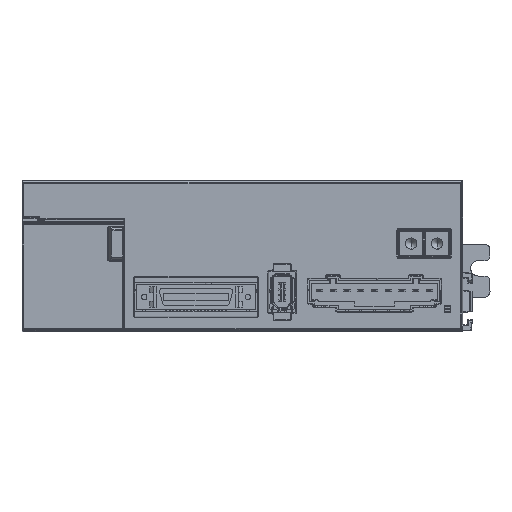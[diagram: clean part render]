
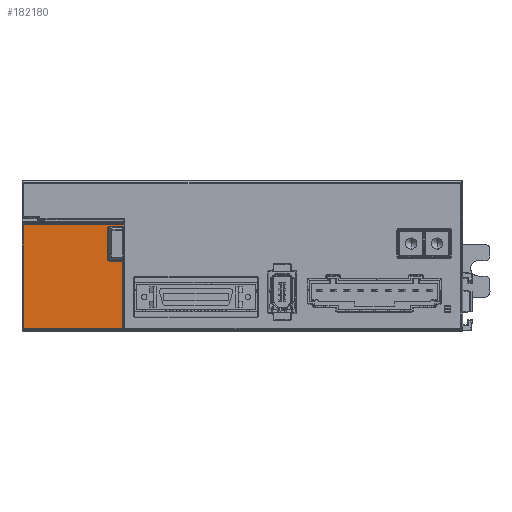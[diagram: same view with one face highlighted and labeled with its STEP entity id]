
A CAD part, front view. The second image highlights one B-rep face of the part: STEP entity #182180.
In plain terms, the highlighted planar face has unit normal (0, -1, 0).
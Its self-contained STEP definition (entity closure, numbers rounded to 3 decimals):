
#176480=DIRECTION('',(0.,0.,1.));
#176481=VECTOR('',#176480,37.586);
#176482=CARTESIAN_POINT('',(-79.461,-73.,-4.993));
#176483=LINE('',#176482,#176481);
#176622=DIRECTION('',(1.,0.,0.));
#176623=VECTOR('',#176622,36.104);
#176624=CARTESIAN_POINT('',(-79.461,-73.,32.593));
#176625=LINE('',#176624,#176623);
#176634=DIRECTION('',(-1.,0.,0.));
#176635=VECTOR('',#176634,36.104);
#176636=CARTESIAN_POINT('',(-43.357,-73.,-4.993));
#176637=LINE('',#176636,#176635);
#179044=DIRECTION('',(0.,0.,-1.));
#179045=VECTOR('',#179044,0.451);
#179046=CARTESIAN_POINT('',(-43.357,-73.,32.593));
#179047=LINE('',#179046,#179045);
#179196=DIRECTION('',(0.,0.,-1.));
#179197=VECTOR('',#179196,24.451);
#179198=CARTESIAN_POINT('',(-43.357,-73.,19.458));
#179199=LINE('',#179198,#179197);
#179233=DIRECTION('',(1.,0.,0.));
#179234=VECTOR('',#179233,4.937);
#179235=CARTESIAN_POINT('',(-48.294,-73.,19.458));
#179236=LINE('',#179235,#179234);
#179241=CARTESIAN_POINT('',(-48.817,-73.,19.95));
#179242=CARTESIAN_POINT('',(-48.817,-73.,19.898));
#179243=CARTESIAN_POINT('',(-48.801,-73.,19.799));
#179244=CARTESIAN_POINT('',(-48.728,-73.,19.66));
#179245=CARTESIAN_POINT('',(-48.614,-73.,19.55));
#179246=CARTESIAN_POINT('',(-48.466,-73.,19.476));
#179247=CARTESIAN_POINT('',(-48.354,-73.,19.459));
#179248=CARTESIAN_POINT('',(-48.294,-73.,19.458));
#179264=DIRECTION('',(0.,0.,-1.));
#179265=VECTOR('',#179264,11.701);
#179266=CARTESIAN_POINT('',(-48.817,-73.,31.65));
#179267=LINE('',#179266,#179265);
#179273=CARTESIAN_POINT('',(-48.294,-73.,32.142));
#179274=CARTESIAN_POINT('',(-48.354,-73.,32.141));
#179275=CARTESIAN_POINT('',(-48.464,-73.,32.125));
#179276=CARTESIAN_POINT('',(-48.614,-73.,32.051));
#179277=CARTESIAN_POINT('',(-48.729,-73.,31.939));
#179278=CARTESIAN_POINT('',(-48.801,-73.,31.799));
#179279=CARTESIAN_POINT('',(-48.817,-73.,31.701));
#179280=CARTESIAN_POINT('',(-48.817,-73.,31.65));
#179491=DIRECTION('',(-1.,0.,0.));
#179492=VECTOR('',#179491,4.937);
#179493=CARTESIAN_POINT('',(-43.357,-73.,32.142));
#179494=LINE('',#179493,#179492);
#180402=CARTESIAN_POINT('',(-79.461,-73.,32.593));
#180403=CARTESIAN_POINT('',(-43.357,-73.,32.593));
#180404=VERTEX_POINT('',#180402);
#180405=VERTEX_POINT('',#180403);
#180406=CARTESIAN_POINT('',(-43.357,-73.,-4.993));
#180407=CARTESIAN_POINT('',(-79.461,-73.,-4.993));
#180408=VERTEX_POINT('',#180406);
#180409=VERTEX_POINT('',#180407);
#180410=CARTESIAN_POINT('',(-43.357,-73.,19.458));
#180411=VERTEX_POINT('',#180410);
#180412=CARTESIAN_POINT('',(-48.294,-73.,19.458));
#180413=VERTEX_POINT('',#180412);
#180414=VERTEX_POINT('',#179241);
#180415=CARTESIAN_POINT('',(-48.817,-73.,31.65));
#180416=VERTEX_POINT('',#180415);
#180417=VERTEX_POINT('',#179273);
#180418=CARTESIAN_POINT('',(-43.357,-73.,32.142));
#180419=VERTEX_POINT('',#180418);
#182155=CARTESIAN_POINT('',(-61.525,-73.,13.8));
#182156=DIRECTION('',(0.,1.,0.));
#182157=DIRECTION('',(0.,0.,-1.));
#182158=AXIS2_PLACEMENT_3D('',#182155,#182156,#182157);
#182159=PLANE('',#182158);
#182161=ORIENTED_EDGE('',*,*,#182160,.T.);
#182162=ORIENTED_EDGE('',*,*,#181841,.T.);
#182163=ORIENTED_EDGE('',*,*,#182139,.T.);
#182165=ORIENTED_EDGE('',*,*,#182164,.T.);
#182167=ORIENTED_EDGE('',*,*,#182166,.T.);
#182169=ORIENTED_EDGE('',*,*,#182168,.T.);
#182171=ORIENTED_EDGE('',*,*,#182170,.T.);
#182173=ORIENTED_EDGE('',*,*,#182172,.T.);
#182175=ORIENTED_EDGE('',*,*,#182174,.T.);
#182177=ORIENTED_EDGE('',*,*,#182176,.T.);
#182178=EDGE_LOOP('',(#182161,#182162,#182163,#182165,#182167,#182169,#182171,
#182173,#182175,#182177));
#182179=FACE_OUTER_BOUND('',#182178,.F.);
#182180=ADVANCED_FACE('',(#182179),#182159,.F.);
#179249=B_SPLINE_CURVE_WITH_KNOTS('',3,(#179241,#179242,#179243,#179244,#179245,
#179246,#179247,#179248),.UNSPECIFIED.,.F.,.F.,(4,1,1,1,1,4),(0.,0.2,0.4,
0.6,0.8,1.),.UNSPECIFIED.);
#179281=B_SPLINE_CURVE_WITH_KNOTS('',3,(#179273,#179274,#179275,#179276,#179277,
#179278,#179279,#179280),.UNSPECIFIED.,.F.,.F.,(4,1,1,1,1,4),(0.,0.2,0.4,
0.6,0.8,1.),.UNSPECIFIED.);
#181841=EDGE_CURVE('',#180409,#180404,#176483,.T.);
#182139=EDGE_CURVE('',#180404,#180405,#176625,.T.);
#182160=EDGE_CURVE('',#180408,#180409,#176637,.T.);
#182164=EDGE_CURVE('',#180405,#180419,#179047,.T.);
#182166=EDGE_CURVE('',#180419,#180417,#179494,.T.);
#182168=EDGE_CURVE('',#180417,#180416,#179281,.T.);
#182170=EDGE_CURVE('',#180416,#180414,#179267,.T.);
#182172=EDGE_CURVE('',#180414,#180413,#179249,.T.);
#182174=EDGE_CURVE('',#180413,#180411,#179236,.T.);
#182176=EDGE_CURVE('',#180411,#180408,#179199,.T.);
